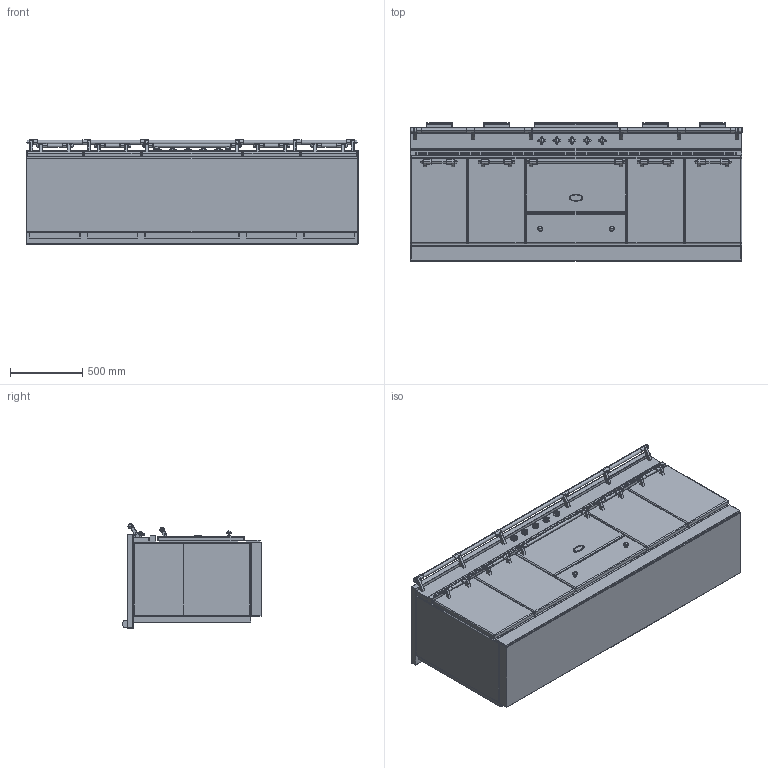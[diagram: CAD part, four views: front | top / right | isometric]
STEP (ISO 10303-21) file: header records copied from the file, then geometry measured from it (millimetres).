
FILE_DESCRIPTION((''),'2;1');
FILE_NAME('LVTR2341_ASM','2021-12-08T09:10:49',('r.avril'),(''),'CREO PARAMETRIC BY PTC INC, 2017260','CREO PARAMETRIC BY PTC INC, 2017260','');
FILE_SCHEMA(('AP203_CONFIGURATION_CONTROLLED_3D_DESIGN_OF_MECHANICAL_PARTS_AND_ASSEMBLIES_MIM_LF { 1 0 10303 403 2 1 2 }'));
Products named in the file (21): BASE_EXPORT_FONTENAY_LVTR2341; 65650003; 65650004; 65650006; 65650007; 6531940; 6531941; 6531943; 65049009; 65650001; 6538399; 1931942; 65080022_AF0; 6531942_ASM; BASE_EXPORT_FONTENAY_LVTR2341_ASM; TABLE_2300_INDUCTION_ET_VTR; 65052002; CHEMINEE_2020_LG582_EXPORT_STEP; CHEMINEE_2020_LG182_EXPORT_STEP; TABLE_2300_VTR_ASM; LVTR2341_ASM
Assembly tree (38 placements, depth 4):
  LVTR2341_ASM
    BASE_EXPORT_FONTENAY_LVTR2341_ASM
      BASE_EXPORT_FONTENAY_LVTR2341
      65650003
      65650004
      65650006  x2
      65650007  x2
      6531940  x5
      6531941  x5
      6531943  x2
      65049009
      65650001
      6531942_ASM  x5
        6538399
        1931942
        65080022_AF0
    TABLE_2300_VTR_ASM
      TABLE_2300_INDUCTION_ET_VTR
      65052002
      CHEMINEE_2020_LG582_EXPORT_STEP
      CHEMINEE_2020_LG182_EXPORT_STEP  x4
Bounding box: 2305 x 963 x 724 mm (x, y, z)
Volume: 851400049.6 mm3; surface area: 19479150 mm2
Topology: 53 solids, 71 shells, 5764 faces, 15546 edges, 9927 vertices
Faces by surface type: plane 2760, cylinder 2134, torus 297, sphere 178, extrusion 142, bspline 128, cone 101, revolution 24
Entity records: 120832 total; most frequent: CARTESIAN_POINT 25740, DIRECTION 17368, ORIENTED_EDGE 17184, EDGE_CURVE 8606, AXIS2_PLACEMENT_3D 5892, VERTEX_POINT 5543, VECTOR 5516, LINE 5486
